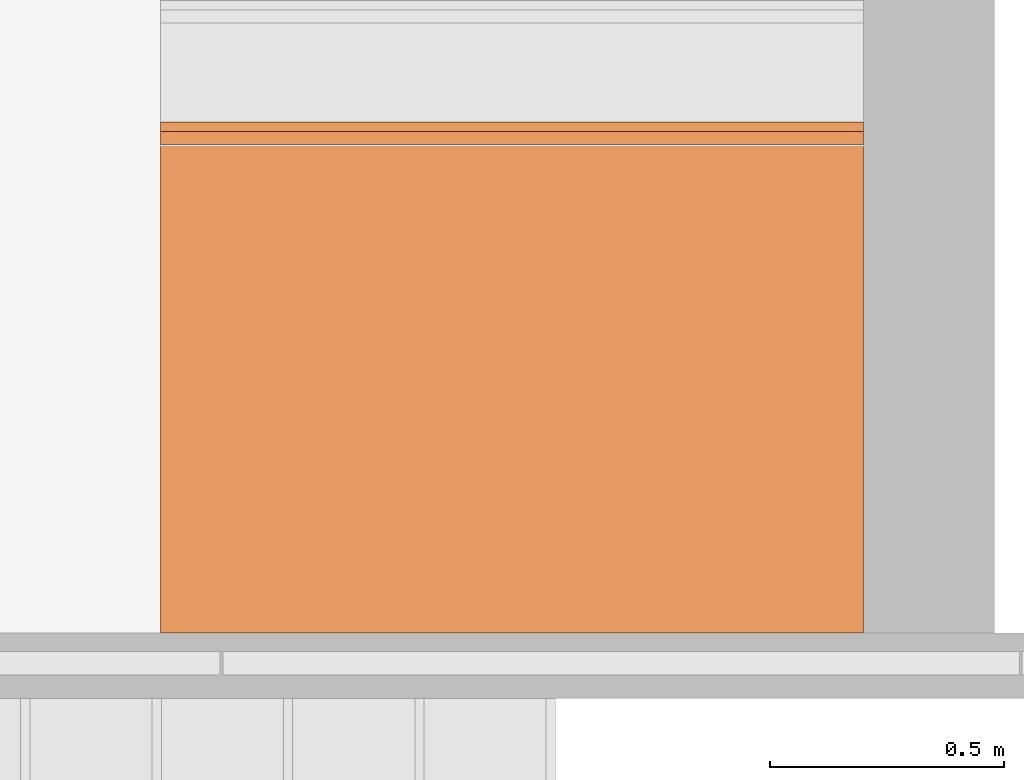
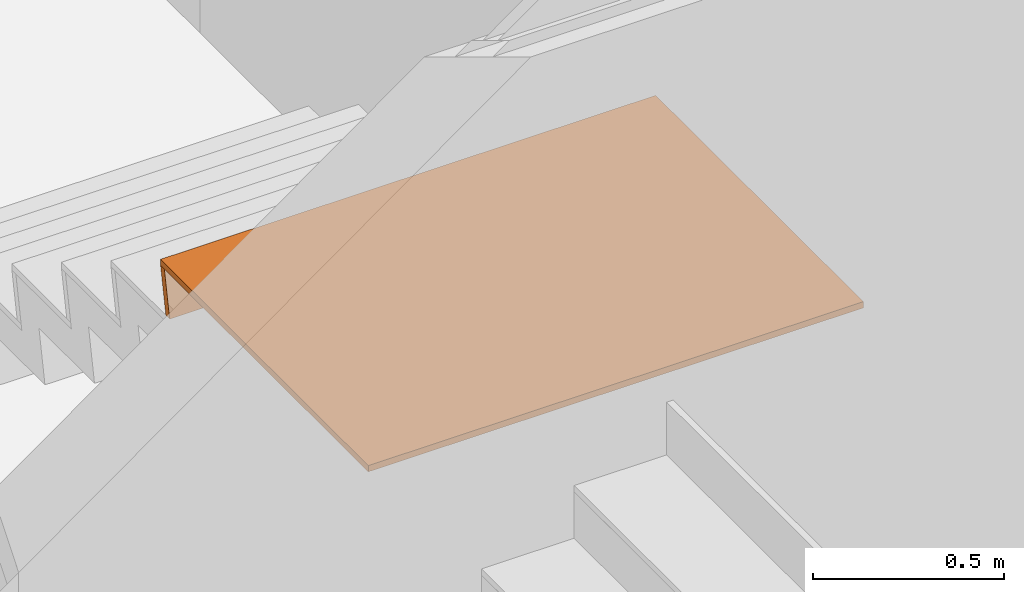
# One storey, part 16 of 16: 2 proxies, 1 element without a shape of its own.
"""IFC2X3 building model written with IfcOpenShell, lengths in millimetres."""

from ifc_helpers import new_model, entity, si_unit, converted_unit, derived_unit, money_unit, direction, frame, origin_with_axes, place, context, subcontext, project, spatial, faceted_brep, material, type_object, element, aggregate, save


model = new_model("IFC2X3")

# Units and contexts
model_context = context("Model", 3, precision=0.01, world=origin_with_axes(), true_north=direction((0.293984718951, 0.955810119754)))
body_context = subcontext(model_context, "Body", "Model", "MODEL_VIEW")
ifc_project = project(units=[si_unit("LENGTHUNIT", "METRE", prefix="MILLI"), si_unit("AREAUNIT", "SQUARE_METRE"), si_unit("VOLUMEUNIT", "CUBIC_METRE"), converted_unit("PLANEANGLEUNIT", "DEGREE", entity("IfcPlaneAngleMeasure", 0.0174532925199), si_unit("PLANEANGLEUNIT", "RADIAN"), dimensions=[0, 0, 0, 0, 0, 0, 0]), si_unit("SOLIDANGLEUNIT", "STERADIAN"), money_unit("USD"), converted_unit("TIMEUNIT", "Year", entity("IfcTimeMeasure", 31556926.0), si_unit("TIMEUNIT", "SECOND"), dimensions=[0, 0, 1, 0, 0, 0, 0]), si_unit("MASSUNIT", "GRAM", prefix="KILO"), si_unit("THERMODYNAMICTEMPERATUREUNIT", "DEGREE_CELSIUS"), si_unit("LUMINOUSINTENSITYUNIT", "LUMEN"), si_unit("ENERGYUNIT", "JOULE", prefix="MEGA"), derived_unit("THERMALCONDUCTANCEUNIT", [(si_unit("POWERUNIT", "WATT"), 1), (si_unit("LENGTHUNIT", "METRE"), -1), (si_unit("THERMODYNAMICTEMPERATUREUNIT", "KELVIN"), -1)]), derived_unit("SPECIFICHEATCAPACITYUNIT", [(si_unit("ENERGYUNIT", "JOULE"), 1), (si_unit("MASSUNIT", "GRAM", prefix="KILO"), -1), (si_unit("THERMODYNAMICTEMPERATUREUNIT", "KELVIN"), -1)]), derived_unit("MASSDENSITYUNIT", [(si_unit("MASSUNIT", "GRAM", prefix="KILO"), 1), (si_unit("VOLUMEUNIT", "CUBIC_METRE"), -1)])], contexts=[model_context])

# Site, building, storey
site_placement = place(None, origin_with_axes())
site = spatial("IfcSite", under=ifc_project, at=site_placement, Name="Local", CompositionType="ELEMENT")
building_placement = place(site_placement, origin_with_axes())
building = spatial("IfcBuilding", under=site, at=building_placement, Name="Construção", CompositionType="ELEMENT")
storey_placement = place(building_placement, origin_with_axes())
storey = spatial("IfcBuildingStorey", under=building, at=storey_placement, Name="Pavimento Térreo", CompositionType="ELEMENT", Elevation=0.0)

# Stair, proxies
stair_placement = place(storey_placement, frame((15199.6450727, 6400.63219788, 50.0), z_axis=(0.0, 0.0, 1.0), x_axis=(1.0, 0.0, 0.0)))
stair = element("IfcStair", 1, at=stair_placement, inside=storey, Name="Escada", ShapeType="NOTDEFINED")
ifc_material = material(Name="Concreto - Contra Piso")
building_element_proxy_type = type_object("IfcBuildingElementProxyType", Name="IfcBuildingElementProxy", PredefinedType="NOTDEFINED")
proxy_1_placement = place(stair_placement, frame((-750.0, -1820.0, 1280.0), z_axis=(0.0, 0.0, 1.0), x_axis=(-1.0, 0.0, 0.0)))
proxy_1 = element("IfcBuildingElementProxy", 2, at=proxy_1_placement, type_object=building_element_proxy_type, material=ifc_material, Name="RISER-010", context=body_context, shape_type="Brep", body=[
    faceted_brep([(750.0, 0.0, 0.0), (750.0, 20.3743338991, 0.0), (-750.0, 20.3743338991, 0.0), (-750.0, 0.0, 0.0), (750.0, 27.6991940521, -142.5), (750.0, 48.0735279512, -142.5), (-750.0, 48.0735279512, -142.5), (-750.0, 27.6991940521, -142.5)], [[[0, 1, 2, 3]], [[0, 4, 5, 1]], [[1, 5, 6, 2]], [[3, 2, 6, 7]], [[4, 0, 3, 7]], [[5, 4, 7, 6]]]),
])
proxy_2_placement = place(stair_placement, frame((-750.0, -1820.0, 1300.0), z_axis=(0.0, 0.0, 1.0), x_axis=(-1.0, 0.0, 0.0)))
proxy_2 = element("IfcBuildingElementProxy", 3, at=proxy_2_placement, type_object=building_element_proxy_type, material=ifc_material, Name="TREAD-010", context=body_context, shape_type="Brep", body=[
    faceted_brep([(750.0, 1090.0, -20.0), (-750.0, 1090.0, -20.0), (-750.0, 1090.0, 0.0), (750.0, 1090.0, 0.0), (750.0, 3.19166915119e-09, -20.0), (-750.0, 3.19166915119e-09, -20.0), (-750.0, 3.19166915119e-09, 0.0), (750.0, 3.19166915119e-09, 0.0)], [[[0, 1, 2, 3]], [[0, 4, 5, 1]], [[1, 5, 6, 2]], [[3, 2, 6, 7]], [[4, 0, 3, 7]], [[5, 4, 7, 6]]]),
])
aggregate(stair, [proxy_1, proxy_2])

save(model, "model.ifc")
